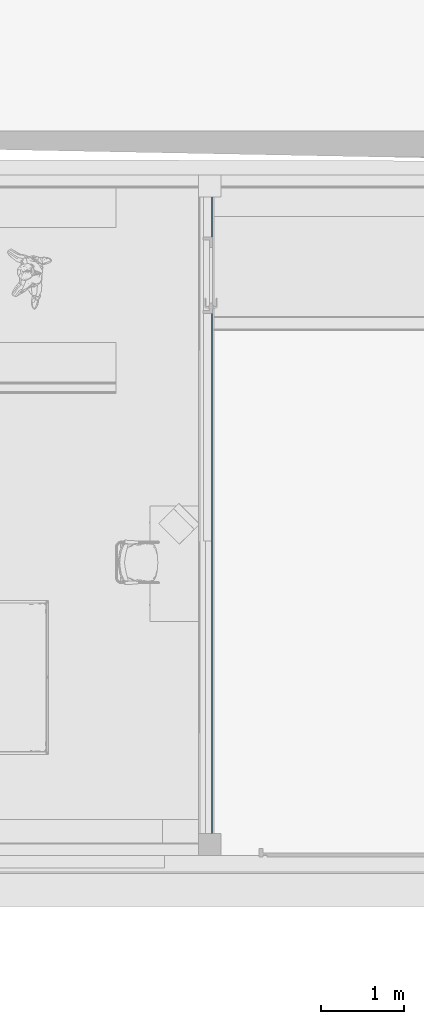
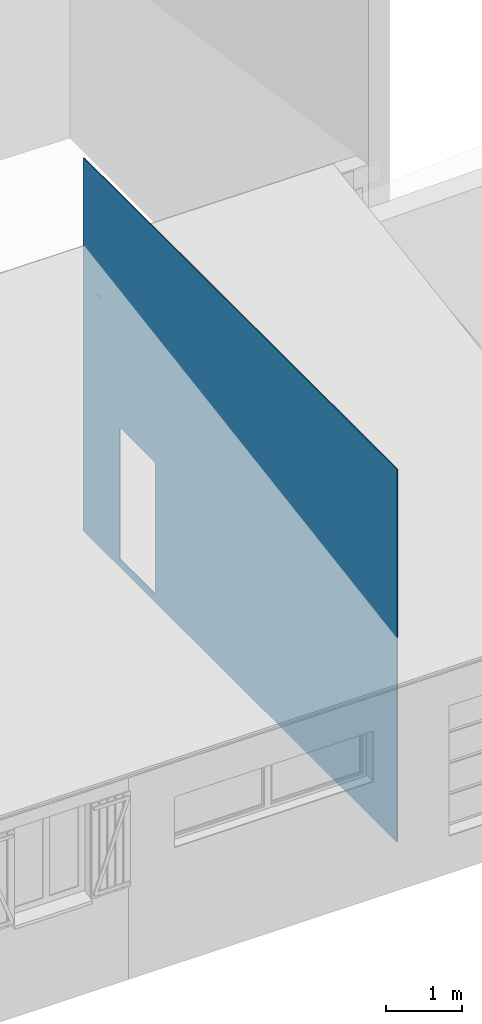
# One storey, part 15 of 24: 1 building element part, 1 opening, 1 element without a shape of its own.
"""IFC2X3 building model written with IfcOpenShell, lengths in metres."""

from ifc_helpers import new_model, entity, si_unit, converted_unit, derived_unit, money_unit, direction, frame, origin_with_axes, origin_2d_with_axis, place, context, subcontext, project, spatial, polyline, rectangle, outline, extrude, boolean, faceted_brep, material, type_object, element, aggregate, save


model = new_model("IFC2X3")

# Units and contexts
model_context = context("Model", 3, precision=1e-05, world=origin_with_axes(), true_north=direction((0.0, 1.0)))
body_context = subcontext(model_context, "Body", "Model", "MODEL_VIEW")
ifc_project = project(units=[si_unit("LENGTHUNIT", "METRE"), si_unit("AREAUNIT", "SQUARE_METRE"), si_unit("VOLUMEUNIT", "CUBIC_METRE"), converted_unit("PLANEANGLEUNIT", "DEGREE", entity("IfcPlaneAngleMeasure", 0.0174532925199), si_unit("PLANEANGLEUNIT", "RADIAN"), dimensions=[0, 0, 0, 0, 0, 0, 0]), si_unit("SOLIDANGLEUNIT", "STERADIAN"), money_unit("CHF"), converted_unit("TIMEUNIT", "Year", entity("IfcTimeMeasure", 31556926.0), si_unit("TIMEUNIT", "SECOND"), dimensions=[0, 0, 1, 0, 0, 0, 0]), si_unit("MASSUNIT", "GRAM", prefix="KILO"), si_unit("THERMODYNAMICTEMPERATUREUNIT", "DEGREE_CELSIUS"), si_unit("LUMINOUSINTENSITYUNIT", "LUMEN"), si_unit("ENERGYUNIT", "JOULE", prefix="MEGA"), derived_unit("THERMALCONDUCTANCEUNIT", [(si_unit("POWERUNIT", "WATT"), 1), (si_unit("LENGTHUNIT", "METRE"), -1), (si_unit("THERMODYNAMICTEMPERATUREUNIT", "KELVIN"), -1)]), derived_unit("SPECIFICHEATCAPACITYUNIT", [(si_unit("ENERGYUNIT", "JOULE"), 1), (si_unit("MASSUNIT", "GRAM", prefix="KILO"), -1), (si_unit("THERMODYNAMICTEMPERATUREUNIT", "KELVIN"), -1)]), derived_unit("MASSDENSITYUNIT", [(si_unit("MASSUNIT", "GRAM", prefix="KILO"), 1), (si_unit("VOLUMEUNIT", "CUBIC_METRE"), -1)])], contexts=[model_context])

# Site, building, storey
site_placement = place(None, origin_with_axes())
site = spatial("IfcSite", under=ifc_project, at=site_placement, Name="Site", CompositionType="ELEMENT")
building_placement = place(site_placement, origin_with_axes())
building = spatial("IfcBuilding", under=site, at=building_placement, Name="Bâtiment", CompositionType="ELEMENT")
storey_placement = place(building_placement, origin_with_axes())
storey = spatial("IfcBuildingStorey", under=building, at=storey_placement, Name="Rez-de-chaussée", CompositionType="ELEMENT", Elevation=0.0)

# Wall, opening, building element part
wall_type = type_object("IfcWallType", Name="3.3c - Cloison doublage isolation + plâtre 2 faces 170", PredefinedType="ELEMENTEDWALL")
wall_placement = place(storey_placement, frame((27.7121417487, 8.1079346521, -0.13), z_axis=(0.0, 0.0, 1.0), x_axis=(0.0, 1.0, 0.0)))
wall = element("IfcWall", 1, at=wall_placement, inside=storey, type_object=wall_type, Name="MUR_EXT-008", ObjectType="ELEMENTEDWALL")
opening_placement = place(wall_placement, frame((6.87, 0.0, 0.13), z_axis=(0.0, 0.0, 1.0), x_axis=(1.0, 0.0, 0.0)))
element("IfcOpeningElement", 2, at=opening_placement, cuts=wall, Name="PORTE-004", context=body_context, shape_type="SweptSolid", body=[
    extrude(rectangle(XDim=0.93, YDim=2.12, at=origin_2d_with_axis()), frame((0.0, 0.17, 1.06), z_axis=(0.0, 1.0, 0.0), x_axis=(1.0, 0.0, 0.0)), (0.0, 0.0, -1.0), 0.51),
])
ifc_material = material(Name="Finition int - Plaque de plâtre")
building_element_part_placement = place(wall_placement, origin_with_axes())
solid = boolean("DIFFERENCE", boolean("DIFFERENCE", boolean("DIFFERENCE", boolean("DIFFERENCE", boolean("DIFFERENCE", boolean("DIFFERENCE", boolean("DIFFERENCE", boolean("DIFFERENCE", extrude(outline(polyline([(0.0, 0.0), (8.3, 0.0), (8.3, 0.015), (0.0, 0.015), (0.0, 0.0)])), origin_with_axes(), (0.0, 0.0, 1.0), 6.01874511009), faceted_brep([(1.09999229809, 0.17, 3.40376334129), (1.19873643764, 0.17, 3.41956191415), (1.23349329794, 0.17, 3.20232480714), (1.13474915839, 0.17, 3.18652623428), (1.09999229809, 0.155, 3.40376334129), (1.19873643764, 0.155, 3.41956191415), (1.23349329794, 0.155, 3.20232480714), (1.13474915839, 0.155, 3.18652623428)], [[[0, 1, 2, 3]], [[1, 0, 4, 5]], [[2, 1, 5, 6]], [[3, 2, 6, 7]], [[0, 3, 7, 4]], [[4, 7, 6, 5]]])), faceted_brep([(2.38366611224, 0.17, 3.6091447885), (2.48241025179, 0.17, 3.62494336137), (2.51716711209, 0.17, 3.40770625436), (2.41842297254, 0.17, 3.39190768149), (2.38366611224, 0.155, 3.6091447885), (2.48241025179, 0.155, 3.62494336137), (2.51716711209, 0.155, 3.40770625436), (2.41842297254, 0.155, 3.39190768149)], [[[0, 1, 2, 3]], [[1, 0, 4, 5]], [[2, 1, 5, 6]], [[3, 2, 6, 7]], [[0, 3, 7, 4]], [[4, 7, 6, 5]]])), faceted_brep([(3.6673399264, 0.17, 3.81452623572), (3.76608406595, 0.17, 3.83032480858), (3.80084092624, 0.17, 3.61308770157), (3.70209678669, 0.17, 3.59728912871), (3.6673399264, 0.155, 3.81452623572), (3.76608406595, 0.155, 3.83032480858), (3.80084092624, 0.155, 3.61308770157), (3.70209678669, 0.155, 3.59728912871)], [[[0, 1, 2, 3]], [[1, 0, 4, 5]], [[2, 1, 5, 6]], [[3, 2, 6, 7]], [[0, 3, 7, 4]], [[4, 7, 6, 5]]])), faceted_brep([(4.95101374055, 0.17, 4.01990768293), (5.0497578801, 0.17, 4.0357062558), (5.0845147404, 0.17, 3.81846914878), (4.98577060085, 0.17, 3.80267057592), (4.95101374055, 0.155, 4.01990768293), (5.0497578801, 0.155, 4.0357062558), (5.0845147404, 0.155, 3.81846914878), (4.98577060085, 0.155, 3.80267057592)], [[[0, 1, 2, 3]], [[1, 0, 4, 5]], [[2, 1, 5, 6]], [[3, 2, 6, 7]], [[0, 3, 7, 4]], [[4, 7, 6, 5]]])), faceted_brep([(6.2346875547, 0.17, 4.22528913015), (6.33343169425, 0.17, 4.24108770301), (6.36818855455, 0.17, 4.023850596), (6.269444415, 0.17, 4.00805202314), (6.2346875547, 0.155, 4.22528913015), (6.33343169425, 0.155, 4.24108770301), (6.36818855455, 0.155, 4.023850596), (6.269444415, 0.155, 4.00805202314)], [[[0, 1, 2, 3]], [[1, 0, 4, 5]], [[2, 1, 5, 6]], [[3, 2, 6, 7]], [[0, 3, 7, 4]], [[4, 7, 6, 5]]])), faceted_brep([(7.49583260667, 0.17, 4.42706608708), (7.59457674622, 0.17, 4.44286465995), (7.62933360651, 0.17, 4.22562755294), (7.53058946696, 0.17, 4.20982898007), (7.49583260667, 0.155, 4.42706608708), (7.59457674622, 0.155, 4.44286465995), (7.62933360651, 0.155, 4.22562755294), (7.53058946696, 0.155, 4.20982898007)], [[[0, 1, 2, 3]], [[1, 0, 4, 5]], [[2, 1, 5, 6]], [[3, 2, 6, 7]], [[0, 3, 7, 4]], [[4, 7, 6, 5]]])), faceted_brep([(0.595, 0.155, 2.88025371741), (0.0, 0.155, 2.78505666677), (0.0, 0.155, 0.0), (8.3, 0.155, 0.0), (8.3, 0.155, 6.01874511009), (0.0, 0.155, 6.01874511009), (0.0, 0.155, 3.2291999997), (7.9300000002, 0.155, 4.49799999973), (7.93000000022, 0.155, 4.03253522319), (7.815, 0.155, 4.03253522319), (7.815, 0.155, 2.92), (7.93000000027, 0.155, 2.92), (7.93000000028, 0.155, 2.65156535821), (7.335, 0.155, 2.65156535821), (7.335, 0.155, 2.15156535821), (7.815, 0.155, 2.05557143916), (7.815, 0.155, 0.275), (0.115, 0.155, 0.275), (0.115, 0.155, 2.16426351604), (0.595, 0.155, 2.26025743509), (0.0, 0.17, 2.78505666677), (0.595, 0.17, 2.88025371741), (0.0, 0.17, 0.0), (8.3, 0.17, 0.0), (8.3, 0.17, 6.01874511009), (0.0, 0.17, 6.01874511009), (0.0, 0.17, 3.2291999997), (7.9300000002, 0.17, 4.49799999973), (7.93000000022, 0.17, 4.03253522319), (7.815, 0.17, 4.03253522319), (7.815, 0.17, 2.92), (7.93000000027, 0.17, 2.92), (7.93000000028, 0.17, 2.65156535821), (7.335, 0.17, 2.65156535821), (7.335, 0.17, 2.15156535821), (7.815, 0.17, 2.05557143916), (7.815, 0.17, 0.275), (0.115, 0.17, 0.275), (0.115, 0.17, 2.16426351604), (0.595, 0.17, 2.26025743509)], [[[0, 1, 2, 3, 4, 5, 6, 7, 8, 9, 10, 11, 12, 13, 14, 15, 16, 17, 18, 19]], [[20, 1, 0, 21]], [[1, 20, 22, 2]], [[3, 2, 22, 23]], [[4, 3, 23, 24]], [[25, 5, 4, 24]], [[26, 6, 5, 25]], [[6, 26, 27, 7]], [[8, 7, 27, 28]], [[28, 29, 9, 8]], [[29, 30, 10, 9]], [[30, 31, 11, 10]], [[12, 11, 31, 32]], [[32, 33, 13, 12]], [[33, 34, 14, 13]], [[34, 35, 15, 14]], [[35, 36, 16, 15]], [[36, 37, 17, 16]], [[37, 38, 18, 17]], [[38, 39, 19, 18]], [[39, 21, 0, 19]], [[27, 26, 25, 24, 23, 22, 20, 21, 39, 38, 37, 36, 35, 34, 33, 32, 31, 30, 29, 28]]])), faceted_brep([(1.09999229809, 0.155, 3.40376334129), (1.19873643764, 0.155, 3.41956191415), (1.23349329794, 0.155, 3.20232480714), (1.13474915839, 0.155, 3.18652623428), (1.09999229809, 0.015, 3.40376334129), (1.19873643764, 0.015, 3.41956191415), (1.23349329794, 0.015, 3.20232480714), (1.23349329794, 0.085, 3.20232480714), (1.13474915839, 0.085, 3.18652623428), (1.13474915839, 0.015, 3.18652623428), (0.0, 0.015, 3.2291999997), (7.94499999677, 0.015, 4.50039999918), (7.94499999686, 0.015, 4.27613261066), (7.62933360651, 0.015, 4.22562755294), (7.59457674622, 0.015, 4.44286465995), (7.49583260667, 0.015, 4.42706608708), (7.53058946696, 0.015, 4.20982898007), (6.36818855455, 0.015, 4.023850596), (6.33343169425, 0.015, 4.24108770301), (6.2346875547, 0.015, 4.22528913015), (6.269444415, 0.015, 4.00805202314), (5.0845147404, 0.015, 3.81846914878), (5.0497578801, 0.015, 4.0357062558), (4.95101374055, 0.015, 4.01990768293), (4.98577060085, 0.015, 3.80267057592), (3.80084092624, 0.015, 3.61308770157), (3.76608406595, 0.015, 3.83032480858), (3.6673399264, 0.015, 3.81452623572), (3.70209678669, 0.015, 3.59728912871), (2.51716711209, 0.015, 3.40770625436), (2.48241025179, 0.015, 3.62494336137), (2.38366611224, 0.015, 3.6091447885), (2.41842297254, 0.015, 3.39190768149), (0.0, 0.015, 3.00497199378), (0.0, 0.015, 0.0), (8.3, 0.015, 0.0), (8.3, 0.015, 6.01874511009), (0.0, 0.015, 6.01874511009), (7.935, 0.015, 2.50156535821), (7.935, 0.015, 2.65156535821), (7.94499999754, 0.015, 2.65156535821), (7.9449999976, 0.015, 2.50156535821), (7.815, 0.015, 2.92), (7.94499999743, 0.015, 2.92), (7.94499999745, 0.015, 2.87156535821), (3.65482836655, 0.015, 2.87156535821), (3.65482836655, 0.015, 2.65156535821), (7.335, 0.015, 2.65156535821), (7.335, 0.015, 2.15156535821), (7.815, 0.015, 2.05557143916), (7.815, 0.015, 0.275), (2.38843616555, 0.015, 0.275), (2.38843616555, 0.015, 0.13), (0.115, 0.015, 0.13), (0.115, 0.015, 2.16426351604), (0.595, 0.015, 2.26025743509), (0.595, 0.015, 2.87737101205), (7.815, 0.015, 4.03253522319), (7.815, 0.015, 4.03253522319), (7.94499999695, 0.015, 4.05333457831), (7.94499999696, 0.015, 4.03253522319), (2.41842297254, 0.085, 3.39190768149), (0.0, 0.085, 2.78505666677), (0.0, 0.085, 3.00497199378), (2.51716711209, 0.085, 3.40770625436), (3.70209678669, 0.085, 3.59728912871), (3.80084092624, 0.085, 3.61308770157), (4.98577060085, 0.085, 3.80267057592), (5.0845147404, 0.085, 3.81846914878), (6.269444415, 0.085, 4.00805202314), (6.36818855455, 0.085, 4.023850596), (7.53058946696, 0.085, 4.20982898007), (7.62933360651, 0.085, 4.22562755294), (7.94499999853, 0.085, 4.27613261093), (7.94499999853, 0.085, 4.05333457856), (7.815, 0.085, 4.03253522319), (0.595, 0.085, 2.87737101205), (0.595, 0.085, 2.88025371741), (0.0, 0.155, 3.2291999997), (7.9449999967, 0.155, 4.50039999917), (7.9449999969, 0.155, 4.03253522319), (7.59457674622, 0.155, 4.44286465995), (7.62933360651, 0.155, 4.22562755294), (7.49583260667, 0.155, 4.42706608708), (7.53058946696, 0.155, 4.20982898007), (6.33343169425, 0.155, 4.24108770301), (6.36818855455, 0.155, 4.023850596), (6.2346875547, 0.155, 4.22528913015), (6.269444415, 0.155, 4.00805202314), (5.0497578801, 0.155, 4.0357062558), (5.0845147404, 0.155, 3.81846914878), (4.95101374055, 0.155, 4.01990768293), (4.98577060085, 0.155, 3.80267057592), (3.76608406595, 0.155, 3.83032480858), (3.80084092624, 0.155, 3.61308770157), (3.6673399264, 0.155, 3.81452623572), (3.70209678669, 0.155, 3.59728912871), (2.48241025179, 0.155, 3.62494336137), (2.51716711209, 0.155, 3.40770625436), (2.38366611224, 0.155, 3.6091447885), (2.41842297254, 0.155, 3.39190768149), (0.0, 0.155, 2.78505666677), (0.0, 0.155, 0.0), (8.3, 0.155, 0.0), (8.3, 0.155, 6.01874511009), (0.0, 0.155, 6.01874511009), (7.935, 0.155, 2.50156535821), (7.935, 0.155, 2.65156535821), (7.935, 0.11, 2.65156535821), (7.94499999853, 0.11, 2.65156535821), (7.94499999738, 0.155, 2.92), (7.94499999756, 0.155, 2.50156535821), (7.94499999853, 0.11, 2.87156535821), (7.815, 0.155, 2.92), (3.65482836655, 0.11, 2.87156535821), (3.65482836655, 0.11, 2.65156535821), (7.335, 0.11, 2.65156535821), (7.335, 0.155, 2.15156535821), (7.335, 0.155, 2.65156535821), (7.815, 0.155, 2.05557143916), (7.815, 0.155, 0.275), (0.115, 0.155, 0.275), (0.115, 0.0328768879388, 0.275), (0.115, 0.0328768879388, 0.13), (0.115, 0.155, 2.16426351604), (0.595, 0.155, 2.26025743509), (0.595, 0.155, 2.88025371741), (7.815, 0.155, 4.03253522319)], [[[0, 1, 2, 3]], [[0, 4, 5, 1]], [[1, 5, 6, 7, 2]], [[2, 7, 8, 3]], [[3, 8, 9, 4, 0]], [[10, 11, 12, 13, 14, 15, 16, 17, 18, 19, 20, 21, 22, 23, 24, 25, 26, 27, 28, 29, 30, 31, 32, 6, 5, 4, 9, 33, 34, 35, 36, 37], [38, 39, 40, 41], [42, 43, 44, 45, 46, 47, 48, 49, 50, 51, 52, 53, 54, 55, 56, 57], [58, 59, 60]], [[6, 32, 61, 7]], [[62, 63, 8, 7, 61, 64, 65, 66, 67, 68, 69, 70, 71, 72, 73, 74, 75, 76, 77]], [[63, 33, 9, 8]], [[11, 10, 78, 79]], [[12, 11, 79, 80, 60, 59, 74, 73]], [[12, 73, 72, 13]], [[81, 14, 13, 72, 82]], [[83, 15, 14, 81]], [[84, 71, 16, 15, 83]], [[70, 17, 16, 71]], [[85, 18, 17, 70, 86]], [[87, 19, 18, 85]], [[88, 69, 20, 19, 87]], [[21, 20, 69, 68]], [[89, 22, 21, 68, 90]], [[91, 23, 22, 89]], [[92, 67, 24, 23, 91]], [[66, 25, 24, 67]], [[93, 26, 25, 66, 94]], [[95, 27, 26, 93]], [[96, 65, 28, 27, 95]], [[64, 29, 28, 65]], [[97, 30, 29, 64, 98]], [[99, 31, 30, 97]], [[100, 61, 32, 31, 99]], [[62, 101, 102, 34, 33, 63]], [[35, 34, 102, 103]], [[36, 35, 103, 104]], [[105, 37, 36, 104]], [[78, 10, 37, 105]], [[39, 38, 106, 107, 108]], [[40, 39, 108, 109]], [[44, 43, 110, 111, 41, 40, 109, 112]], [[38, 41, 111, 106]], [[43, 42, 113, 110]], [[44, 112, 114, 45]], [[46, 45, 114, 115]], [[115, 116, 47, 46]], [[117, 48, 47, 116, 118]], [[119, 49, 48, 117]], [[120, 50, 49, 119]], [[121, 122, 51, 50, 120]], [[122, 123, 52, 51]], [[53, 52, 123]], [[124, 54, 53, 123, 122, 121]], [[125, 55, 54, 124]], [[126, 77, 76, 56, 55, 125]], [[75, 57, 56, 76]], [[113, 42, 57, 75, 127]], [[59, 58, 75, 74]], [[60, 80, 127, 75, 58]], [[98, 64, 61, 100]], [[94, 66, 65, 96]], [[90, 68, 67, 92]], [[86, 70, 69, 88]], [[82, 72, 71, 84]], [[101, 62, 77, 126]], [[79, 78, 105, 104, 103, 102, 101, 126, 125, 124, 121, 120, 119, 117, 118, 107, 106, 111, 110, 113, 127, 80]], [[83, 81, 82, 84]], [[87, 85, 86, 88]], [[91, 89, 90, 92]], [[95, 93, 94, 96]], [[99, 97, 98, 100]], [[107, 118, 116, 108]], [[115, 114, 112, 109, 108, 116]]]))
building_element_part = element("IfcBuildingElementPart", 3, at=building_element_part_placement, material=ifc_material, Name="Finition int - Plaque de plâtre", context=body_context, shape_type="CSG", body=[
    boolean("DIFFERENCE", solid, faceted_brep([(3.65482836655, 0.01, 2.87156535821), (3.65482836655, 0.01, 2.65156535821), (7.335, 0.01, 2.65156535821), (7.93000000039, 0.01, 2.65156535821), (7.93000000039, 0.01, 2.87156535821), (3.65482836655, 0.015, 2.87156535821), (3.65482836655, 0.015, 2.65156535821), (7.335, 0.015, 2.65156535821), (7.335, 0.0, 2.65156535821), (7.93000000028, 0.0, 2.65156535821), (7.93000000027, 0.015, 2.92), (7.93000000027, 0.015, 2.87156535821), (7.93000000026, 0.0, 2.92), (0.0, 0.015, 0.0), (0.0, 0.015, 3.00497199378), (1.13474915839, 0.015, 3.18652623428), (1.09999229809, 0.015, 3.40376334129), (1.19873643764, 0.015, 3.41956191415), (1.23349329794, 0.015, 3.20232480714), (2.41842297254, 0.015, 3.39190768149), (2.38366611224, 0.015, 3.6091447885), (2.48241025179, 0.015, 3.62494336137), (2.51716711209, 0.015, 3.40770625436), (3.70209678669, 0.015, 3.59728912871), (3.6673399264, 0.015, 3.81452623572), (3.76608406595, 0.015, 3.83032480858), (3.80084092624, 0.015, 3.61308770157), (4.98577060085, 0.015, 3.80267057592), (4.95101374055, 0.015, 4.01990768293), (5.0497578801, 0.015, 4.0357062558), (5.0845147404, 0.015, 3.81846914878), (6.269444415, 0.015, 4.00805202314), (6.2346875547, 0.015, 4.22528913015), (6.33343169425, 0.015, 4.24108770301), (6.36818855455, 0.015, 4.023850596), (7.53058946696, 0.015, 4.20982898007), (7.49583260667, 0.015, 4.42706608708), (7.59457674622, 0.015, 4.44286465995), (7.62933360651, 0.015, 4.22562755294), (7.9300000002, 0.015, 4.27373268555), (7.93000000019, 0.015, 4.49799999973), (0.0, 0.015, 3.2291999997), (0.0, 0.015, 6.01874511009), (8.3, 0.015, 6.01874511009), (8.3, 0.015, 0.0), (0.115, 0.015, 0.13), (2.38843616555, 0.015, 0.13), (2.38843616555, 0.015, 0.275), (7.815, 0.015, 0.275), (7.815, 0.015, 2.05557143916), (7.335, 0.015, 2.15156535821), (7.815, 0.015, 2.92), (7.815, 0.015, 4.03253522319), (7.93000000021, 0.015, 4.03253522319), (7.93000000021, 0.015, 4.05093465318), (7.815, 0.015, 4.03253522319), (0.595, 0.015, 2.87737101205), (0.595, 0.015, 2.26025743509), (0.115, 0.015, 2.16426351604), (7.335, 0.0, 2.15156535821), (0.0, 0.0, 3.00497199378), (0.0, 0.0, 0.0), (8.3, 0.0, 0.0), (8.3, 0.0, 6.01874511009), (0.0, 0.0, 6.01874511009), (0.0, 0.0, 3.2291999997), (7.93000000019, 0.0, 4.49799999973), (7.9300000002, 0.0, 4.27373268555), (7.62933360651, 0.0, 4.22562755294), (7.59457674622, 0.0, 4.44286465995), (7.49583260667, 0.0, 4.42706608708), (7.53058946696, 0.0, 4.20982898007), (6.36818855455, 0.0, 4.023850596), (6.33343169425, 0.0, 4.24108770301), (6.2346875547, 0.0, 4.22528913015), (6.269444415, 0.0, 4.00805202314), (5.0845147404, 0.0, 3.81846914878), (5.0497578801, 0.0, 4.0357062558), (4.95101374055, 0.0, 4.01990768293), (4.98577060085, 0.0, 3.80267057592), (3.80084092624, 0.0, 3.61308770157), (3.76608406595, 0.0, 3.83032480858), (3.6673399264, 0.0, 3.81452623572), (3.70209678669, 0.0, 3.59728912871), (2.51716711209, 0.0, 3.40770625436), (2.48241025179, 0.0, 3.62494336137), (2.38366611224, 0.0, 3.6091447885), (2.41842297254, 0.0, 3.39190768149), (1.23349329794, 0.0, 3.20232480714), (1.19873643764, 0.0, 3.41956191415), (1.09999229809, 0.0, 3.40376334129), (1.13474915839, 0.0, 3.18652623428), (0.115, 0.0, 2.16426351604), (0.595, 0.0, 2.26025743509), (0.595, 0.0, 2.87737101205), (7.815, 0.0, 4.03253522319), (7.93000000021, 0.0, 4.05093465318), (7.93000000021, 0.0, 4.03253522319), (7.815, 0.0, 4.03253522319), (7.815, 0.0, 2.92), (7.815, 0.0, 2.05557143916), (7.815, 0.0, 0.275), (4.29601328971, 0.0, 0.275), (4.29601328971, 0.0, 0.13), (0.115, 0.0, 0.13)], [[[0, 1, 2, 3, 4]], [[5, 6, 1, 0]], [[6, 7, 2, 1]], [[3, 2, 8, 9]], [[10, 11, 4, 3, 9, 12]], [[11, 5, 0, 4]], [[13, 14, 15, 16, 17, 18, 19, 20, 21, 22, 23, 24, 25, 26, 27, 28, 29, 30, 31, 32, 33, 34, 35, 36, 37, 38, 39, 40, 41, 42, 43, 44], [45, 46, 47, 48, 49, 50, 7, 6, 5, 11, 10, 51, 52, 53, 54, 55, 56, 57, 58]], [[7, 50, 59, 8, 2]], [[60, 61, 62, 63, 64, 65, 66, 67, 68, 69, 70, 71, 72, 73, 74, 75, 76, 77, 78, 79, 80, 81, 82, 83, 84, 85, 86, 87, 88, 89, 90, 91], [92, 93, 94, 95, 96, 97, 98, 99, 12, 9, 8, 59, 100, 101, 102, 103, 104]], [[51, 10, 12, 99]], [[14, 13, 61, 60]], [[15, 14, 60, 91]], [[16, 15, 91, 90]], [[17, 16, 90, 89]], [[18, 17, 89, 88]], [[19, 18, 88, 87]], [[20, 19, 87, 86]], [[21, 20, 86, 85]], [[22, 21, 85, 84]], [[23, 22, 84, 83]], [[24, 23, 83, 82]], [[25, 24, 82, 81]], [[26, 25, 81, 80]], [[27, 26, 80, 79]], [[28, 27, 79, 78]], [[29, 28, 78, 77]], [[30, 29, 77, 76]], [[31, 30, 76, 75]], [[32, 31, 75, 74]], [[33, 32, 74, 73]], [[34, 33, 73, 72]], [[35, 34, 72, 71]], [[36, 35, 71, 70]], [[37, 36, 70, 69]], [[38, 37, 69, 68]], [[39, 38, 68, 67]], [[40, 39, 67, 66]], [[41, 40, 66, 65]], [[42, 41, 65, 64]], [[43, 42, 64, 63]], [[44, 43, 63, 62]], [[13, 44, 62, 61]], [[46, 45, 104, 103]], [[47, 46, 103, 102]], [[48, 47, 102, 101]], [[49, 48, 101, 100]], [[50, 49, 100, 59]], [[52, 51, 99, 98]], [[53, 52, 98, 97]], [[54, 53, 97, 96]], [[55, 54, 96, 95]], [[56, 55, 95, 94]], [[57, 56, 94, 93]], [[58, 57, 93, 92]], [[45, 58, 92, 104]]])),
])
aggregate(wall, [building_element_part])

save(model, "model.ifc")
